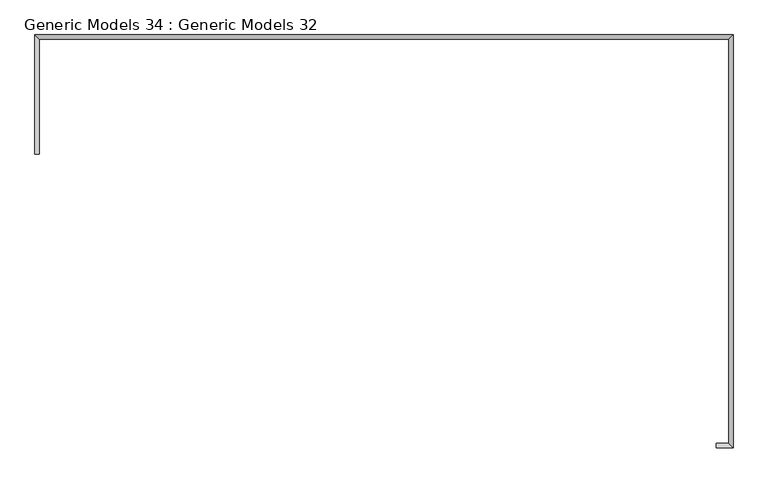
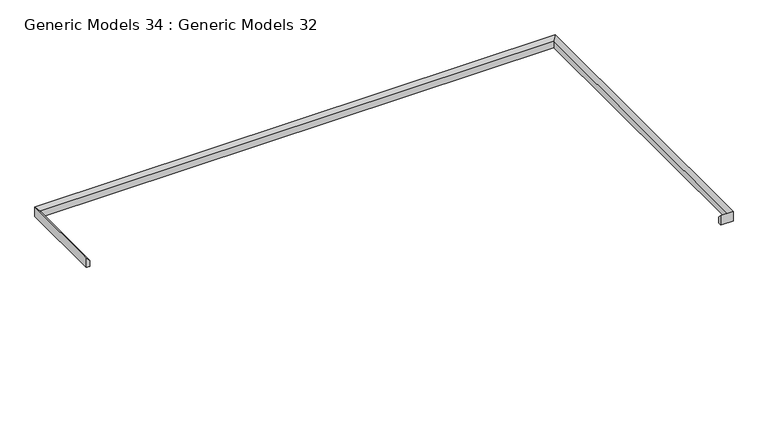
"""IFC4 building model written with IfcOpenShell, lengths in millimetres: proxy geometry, Generic Models 34 : Generic Models 32."""

from ifc_helpers import new_model, si_unit, origin, place, context, project, spatial, faceted_brep, source, transform, mapped, element, save


def generic_models_34_generic_models_32_d1835341(model_context):
    return source(origin(), model_context, "Body", "Brep", [
        faceted_brep([(-81597.9372768, 36205.969902, 44470.0), (-81597.9372768, 36205.969902, 44170.0), (-81597.9372768, 22657.4703267, 44170.0), (-81597.9372768, 22657.4703267, 44470.0), (-81447.9372768, 36355.969902, 44630.0), (-81447.9372768, 22507.4703267, 44630.0), (-81447.9372768, 36355.969902, 44170.0), (-81447.9372768, 22507.4703267, 44170.0), (-82007.9372768, 22657.4703267, 44170.0), (-82007.9372768, 22657.4703267, 44470.0), (-82007.9372768, 22507.4703267, 44630.0), (-82007.9372768, 22507.4703267, 44170.0), (-104697.9372768, 36205.969902, 44470.0), (-104697.9372768, 36205.969902, 44170.0), (-104847.9372768, 36355.969902, 44630.0), (-104847.9372768, 36355.969902, 44170.0), (-104697.9372768, 32355.969902, 44170.0), (-104697.9372768, 32355.969902, 44470.0), (-104847.9372768, 32355.969902, 44630.0), (-104847.9372768, 32355.969902, 44170.0)], [[[0, 1, 2, 3]], [[4, 0, 3, 5]], [[6, 4, 5, 7]], [[3, 2, 8, 9]], [[5, 3, 9, 10]], [[7, 5, 10, 11]], [[12, 13, 1, 0]], [[14, 12, 0, 4]], [[15, 14, 4, 6]], [[16, 17, 18, 19]], [[8, 11, 10, 9]], [[17, 16, 13, 12]], [[18, 17, 12, 14]], [[19, 18, 14, 15]], [[16, 19, 15, 6, 7, 11, 8, 2, 1, 13]]]),
    ])


if __name__ == "__main__":
    model = new_model("IFC4")
    model_context = context("Model", 3, world=origin())
    ifc_project = project(units=[si_unit("LENGTHUNIT", "METRE", prefix="MILLI")], contexts=[model_context])
    site = spatial("IfcSite", under=ifc_project)
    building = spatial("IfcBuilding", under=site)
    placement = place(None, origin())
    generic_models_34_generic_models_32_shape = generic_models_34_generic_models_32_d1835341(model_context)
    element("IfcBuildingElementProxy", 1, Name="Generic Models 34 : Generic Models 32", ObjectType="Generic Models 34 : Generic Models 32", at=placement, inside=building, context=model_context, shape_type="MappedRepresentation", body=[
        mapped(generic_models_34_generic_models_32_shape, transform((0.0, 0.0, 0.0), x_axis=(1.0, 0.0, 0.0), y_axis=(0.0, 1.0, 0.0), z_axis=(0.0, 0.0, 1.0))),
    ])
    save(model, "model.ifc")
